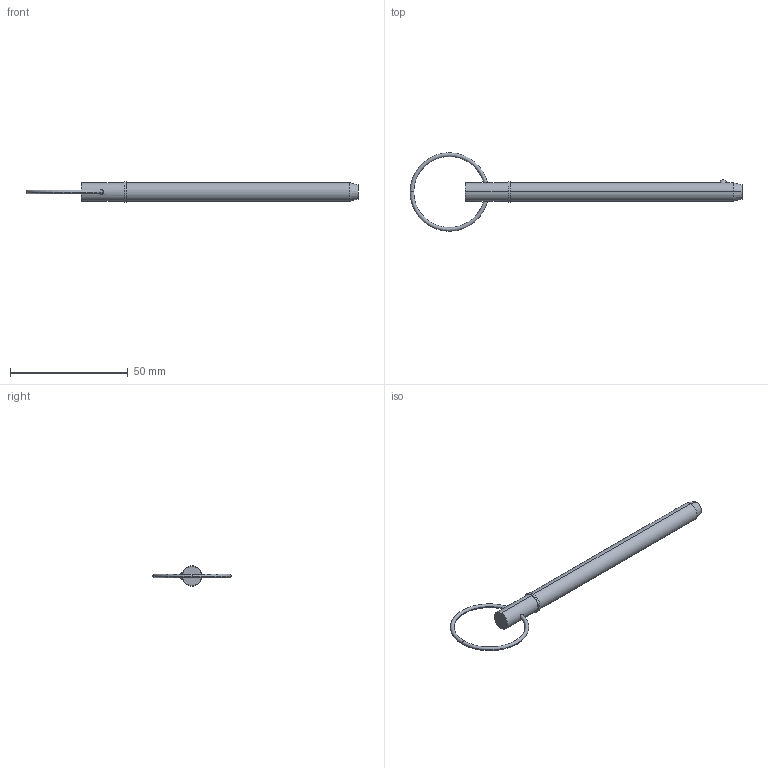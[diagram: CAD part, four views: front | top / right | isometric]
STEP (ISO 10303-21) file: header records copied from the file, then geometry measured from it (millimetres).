
FILE_DESCRIPTION (( 'STEP AP203' ), '1' );
FILE_NAME ('33016.W3135.step', '2024-11-07T11:04:05', ( '' ), ( '' ), 'SwSTEP 2.0', 'SolidWorks 2019', '' );
FILE_SCHEMA (( 'CONFIG_CONTROL_DESIGN' ));
Length unit declared in the file: millimetre
Products named in the file (3): 33016.W3135; Part2_33016.W3135; Part1_33016.W3135
Assembly tree (2 placements, depth 2):
  33016.W3135
    Part1_33016.W3135
    Part2_33016.W3135
Bounding box: 141.02 x 33.34 x 8.73 mm (x, y, z)
Volume: 5961.5 mm3; surface area: 3567.5 mm2
Topology: 2 solids, 2 shells, 22 faces, 43 edges, 26 vertices
Faces by surface type: torus 8, cylinder 6, plane 4, sphere 2, cone 2
Entity records: 989 total; most frequent: CARTESIAN_POINT 212, DIRECTION 120, ORIENTED_EDGE 86, AXIS2_PLACEMENT_3D 56, EDGE_CURVE 43, CIRCLE 29, EDGE_LOOP 27, PERSON_AND_ORGANIZATION 26
